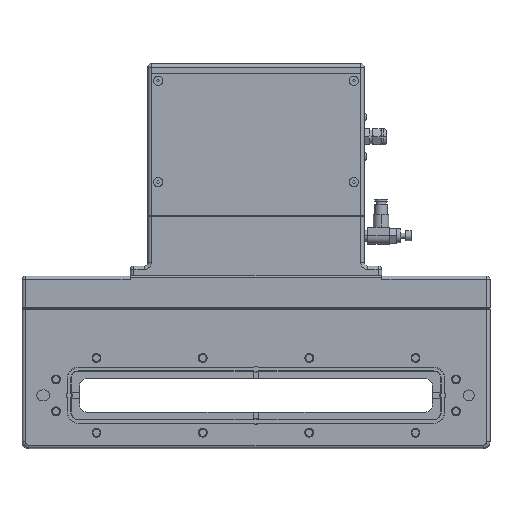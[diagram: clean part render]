
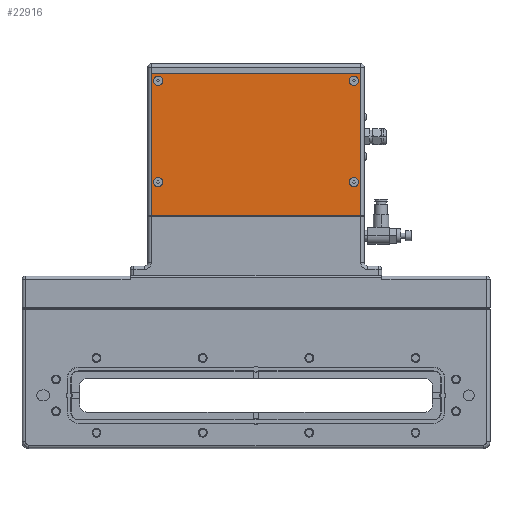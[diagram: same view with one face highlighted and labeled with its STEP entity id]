
A CAD part, top view. The second image highlights one B-rep face of the part: STEP entity #22916.
In plain terms, the highlighted planar face has unit normal (0, 0, 1).
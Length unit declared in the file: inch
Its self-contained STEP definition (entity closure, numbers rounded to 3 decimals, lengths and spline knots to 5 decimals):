
#7274=DIRECTION('',(1.,0.,0.));
#7275=VECTOR('',#7274,7.74);
#7276=CARTESIAN_POINT('',(-3.87,11.917,1.1415));
#7277=LINE('',#7276,#7275);
#7278=DIRECTION('',(0.,-1.,0.));
#7279=VECTOR('',#7278,5.265);
#7280=CARTESIAN_POINT('',(3.87,11.917,1.1415));
#7281=LINE('',#7280,#7279);
#7282=DIRECTION('',(-1.,0.,0.));
#7283=VECTOR('',#7282,7.74);
#7284=CARTESIAN_POINT('',(3.87,6.652,1.1415));
#7285=LINE('',#7284,#7283);
#7286=DIRECTION('',(0.,1.,0.));
#7287=VECTOR('',#7286,5.265);
#7288=CARTESIAN_POINT('',(-3.87,6.652,1.1415));
#7289=LINE('',#7288,#7287);
#7306=CARTESIAN_POINT('',(3.625,11.647,1.1415));
#7307=DIRECTION('',(0.,0.,-1.));
#7308=DIRECTION('',(0.,1.,0.));
#7309=AXIS2_PLACEMENT_3D('',#7306,#7307,#7308);
#7311=CARTESIAN_POINT('',(3.625,11.647,1.1415));
#7312=DIRECTION('',(0.,0.,-1.));
#7313=DIRECTION('',(0.,-1.,0.));
#7314=AXIS2_PLACEMENT_3D('',#7311,#7312,#7313);
#7316=CARTESIAN_POINT('',(-3.625,11.647,1.1415));
#7317=DIRECTION('',(0.,0.,-1.));
#7318=DIRECTION('',(0.,1.,0.));
#7319=AXIS2_PLACEMENT_3D('',#7316,#7317,#7318);
#7321=CARTESIAN_POINT('',(-3.625,11.647,1.1415));
#7322=DIRECTION('',(0.,0.,-1.));
#7323=DIRECTION('',(0.,-1.,0.));
#7324=AXIS2_PLACEMENT_3D('',#7321,#7322,#7323);
#7326=CARTESIAN_POINT('',(3.625,7.897,1.1415));
#7327=DIRECTION('',(0.,0.,-1.));
#7328=DIRECTION('',(0.,1.,0.));
#7329=AXIS2_PLACEMENT_3D('',#7326,#7327,#7328);
#7331=CARTESIAN_POINT('',(3.625,7.897,1.1415));
#7332=DIRECTION('',(0.,0.,-1.));
#7333=DIRECTION('',(0.,-1.,0.));
#7334=AXIS2_PLACEMENT_3D('',#7331,#7332,#7333);
#7336=CARTESIAN_POINT('',(-3.625,7.897,1.1415));
#7337=DIRECTION('',(0.,0.,-1.));
#7338=DIRECTION('',(0.,1.,0.));
#7339=AXIS2_PLACEMENT_3D('',#7336,#7337,#7338);
#7341=CARTESIAN_POINT('',(-3.625,7.897,1.1415));
#7342=DIRECTION('',(0.,0.,-1.));
#7343=DIRECTION('',(0.,-1.,0.));
#7344=AXIS2_PLACEMENT_3D('',#7341,#7342,#7343);
#12754=CARTESIAN_POINT('',(-3.87,11.917,1.1415));
#12755=CARTESIAN_POINT('',(3.87,11.917,1.1415));
#12756=VERTEX_POINT('',#12754);
#12757=VERTEX_POINT('',#12755);
#12758=CARTESIAN_POINT('',(3.87,6.652,1.1415));
#12759=VERTEX_POINT('',#12758);
#12760=CARTESIAN_POINT('',(-3.87,6.652,1.1415));
#12761=VERTEX_POINT('',#12760);
#12850=CARTESIAN_POINT('',(3.625,11.819,1.1415));
#12851=CARTESIAN_POINT('',(3.625,11.475,1.1415));
#12852=VERTEX_POINT('',#12850);
#12853=VERTEX_POINT('',#12851);
#12930=CARTESIAN_POINT('',(-3.625,11.819,1.1415));
#12931=VERTEX_POINT('',#12930);
#12932=CARTESIAN_POINT('',(-3.625,11.475,1.1415));
#12933=VERTEX_POINT('',#12932);
#13010=CARTESIAN_POINT('',(3.625,8.069,1.1415));
#13011=VERTEX_POINT('',#13010);
#13012=CARTESIAN_POINT('',(3.625,7.725,1.1415));
#13013=VERTEX_POINT('',#13012);
#13090=CARTESIAN_POINT('',(-3.625,8.069,1.1415));
#13091=VERTEX_POINT('',#13090);
#13092=CARTESIAN_POINT('',(-3.625,7.725,1.1415));
#13093=VERTEX_POINT('',#13092);
#22877=CARTESIAN_POINT('',(0.,0.,1.1415));
#22878=DIRECTION('',(0.,0.,1.));
#22879=DIRECTION('',(1.,0.,0.));
#22880=AXIS2_PLACEMENT_3D('',#22877,#22878,#22879);
#22881=PLANE('',#22880);
#22883=ORIENTED_EDGE('',*,*,#22882,.T.);
#22885=ORIENTED_EDGE('',*,*,#22884,.T.);
#22887=ORIENTED_EDGE('',*,*,#22886,.T.);
#22889=ORIENTED_EDGE('',*,*,#22888,.T.);
#22890=EDGE_LOOP('',(#22883,#22885,#22887,#22889));
#22891=FACE_OUTER_BOUND('',#22890,.F.);
#22893=ORIENTED_EDGE('',*,*,#22892,.F.);
#22895=ORIENTED_EDGE('',*,*,#22894,.F.);
#22896=EDGE_LOOP('',(#22893,#22895));
#22897=FACE_BOUND('',#22896,.F.);
#22899=ORIENTED_EDGE('',*,*,#22898,.F.);
#22901=ORIENTED_EDGE('',*,*,#22900,.F.);
#22902=EDGE_LOOP('',(#22899,#22901));
#22903=FACE_BOUND('',#22902,.F.);
#22905=ORIENTED_EDGE('',*,*,#22904,.F.);
#22907=ORIENTED_EDGE('',*,*,#22906,.F.);
#22908=EDGE_LOOP('',(#22905,#22907));
#22909=FACE_BOUND('',#22908,.F.);
#22911=ORIENTED_EDGE('',*,*,#22910,.F.);
#22913=ORIENTED_EDGE('',*,*,#22912,.F.);
#22914=EDGE_LOOP('',(#22911,#22913));
#22915=FACE_BOUND('',#22914,.F.);
#7310=CIRCLE('',#7309,0.172);
#7315=CIRCLE('',#7314,0.172);
#7320=CIRCLE('',#7319,0.172);
#7325=CIRCLE('',#7324,0.172);
#7330=CIRCLE('',#7329,0.172);
#7335=CIRCLE('',#7334,0.172);
#7340=CIRCLE('',#7339,0.172);
#7345=CIRCLE('',#7344,0.172);
#22882=EDGE_CURVE('',#12756,#12757,#7277,.T.);
#22884=EDGE_CURVE('',#12757,#12759,#7281,.T.);
#22886=EDGE_CURVE('',#12759,#12761,#7285,.T.);
#22888=EDGE_CURVE('',#12761,#12756,#7289,.T.);
#22892=EDGE_CURVE('',#12852,#12853,#7310,.T.);
#22894=EDGE_CURVE('',#12853,#12852,#7315,.T.);
#22898=EDGE_CURVE('',#12931,#12933,#7320,.T.);
#22900=EDGE_CURVE('',#12933,#12931,#7325,.T.);
#22904=EDGE_CURVE('',#13011,#13013,#7330,.T.);
#22906=EDGE_CURVE('',#13013,#13011,#7335,.T.);
#22910=EDGE_CURVE('',#13091,#13093,#7340,.T.);
#22912=EDGE_CURVE('',#13093,#13091,#7345,.T.);
#22916=ADVANCED_FACE('',(#22891,#22897,#22903,#22909,#22915),#22881,.T.);
